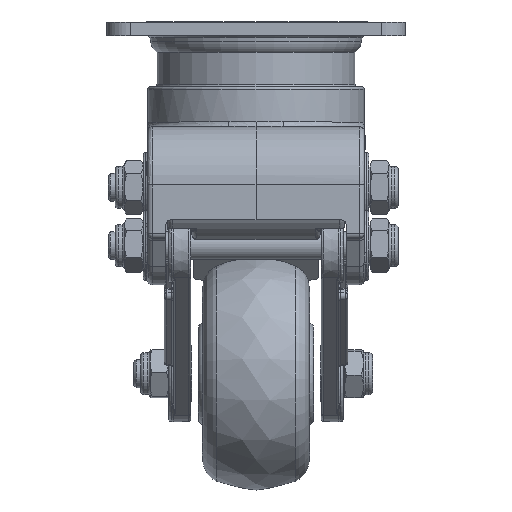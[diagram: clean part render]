
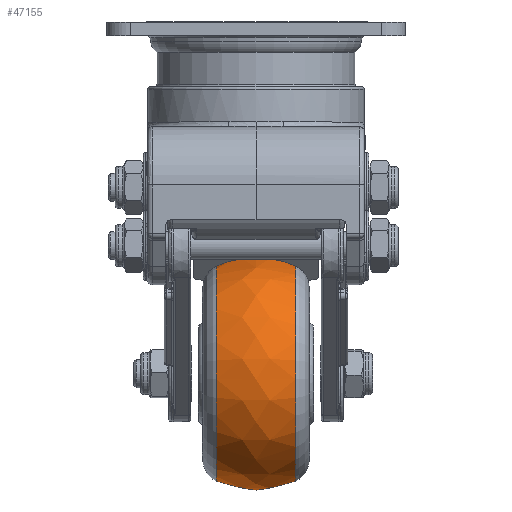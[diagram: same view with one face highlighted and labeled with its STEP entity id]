
A CAD part, left-side view. The second image highlights one B-rep face of the part: STEP entity #47155.
In plain terms, the highlighted free-form (B-spline) face has degree [2, 2] with [3, 9] control points.
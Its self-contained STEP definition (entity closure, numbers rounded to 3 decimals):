
#14=(
BOUNDED_SURFACE()
B_SPLINE_SURFACE(2,2,((#74544,#74545,#74546,#74547,#74548,#74549,#74550,
#74551,#74552),(#74553,#74554,#74555,#74556,#74557,#74558,#74559,#74560,
#74561),(#74562,#74563,#74564,#74565,#74566,#74567,#74568,#74569,#74570)),
 .UNSPECIFIED.,.F.,.T.,.F.)
B_SPLINE_SURFACE_WITH_KNOTS((3,3),(3,2,2,2,3),(-0.44,0.44),
(-3.142,-1.571,0.,1.571,3.142),
 .UNSPECIFIED.)
GEOMETRIC_REPRESENTATION_ITEM()
RATIONAL_B_SPLINE_SURFACE(((1.,0.707,1.,0.707,1.,
0.707,1.,0.707,1.),(0.905,0.64,
0.905,0.64,0.905,0.64,
0.905,0.64,0.905),(1.,0.707,
1.,0.707,1.,0.707,1.,0.707,1.)))
REPRESENTATION_ITEM('')
SURFACE()
);
#4693=CIRCLE('',#50505,23.096);
#4694=CIRCLE('',#50506,23.096);
#4695=CIRCLE('',#50507,20.);
#4696=CIRCLE('',#50508,23.096);
#4697=CIRCLE('',#50509,23.096);
#6538=FACE_OUTER_BOUND('',#9292,.T.);
#9292=EDGE_LOOP('',(#33801,#33802,#33803,#33804,#33805,#33806));
#19278=VERTEX_POINT('',#74571);
#19279=VERTEX_POINT('',#74572);
#19280=VERTEX_POINT('',#74575);
#19281=VERTEX_POINT('',#74577);
#24535=EDGE_CURVE('',#19278,#19279,#4693,.T.);
#24536=EDGE_CURVE('',#19279,#19278,#4694,.T.);
#24537=EDGE_CURVE('',#19279,#19280,#4695,.T.);
#24538=EDGE_CURVE('',#19280,#19281,#4696,.T.);
#24539=EDGE_CURVE('',#19281,#19280,#4697,.T.);
#33801=ORIENTED_EDGE('',*,*,#24535,.F.);
#33802=ORIENTED_EDGE('',*,*,#24536,.F.);
#33803=ORIENTED_EDGE('',*,*,#24537,.T.);
#33804=ORIENTED_EDGE('',*,*,#24538,.T.);
#33805=ORIENTED_EDGE('',*,*,#24539,.T.);
#33806=ORIENTED_EDGE('',*,*,#24537,.F.);
#47155=ADVANCED_FACE('',(#6538),#14,.F.);
#50505=AXIS2_PLACEMENT_3D('',#74573,#57215,#57216);
#50506=AXIS2_PLACEMENT_3D('',#74574,#57217,#57218);
#50507=AXIS2_PLACEMENT_3D('',#74576,#57219,#57220);
#50508=AXIS2_PLACEMENT_3D('',#74578,#57221,#57222);
#50509=AXIS2_PLACEMENT_3D('',#74579,#57223,#57224);
#57215=DIRECTION('center_axis',(0.,-1.,0.));
#57216=DIRECTION('ref_axis',(0.051,0.,-0.999));
#57217=DIRECTION('center_axis',(0.,-1.,0.));
#57218=DIRECTION('ref_axis',(0.051,0.,-0.999));
#57219=DIRECTION('center_axis',(-0.999,0.,
-0.051));
#57220=DIRECTION('ref_axis',(-0.051,0.,0.999));
#57221=DIRECTION('center_axis',(0.,-1.,0.));
#57222=DIRECTION('ref_axis',(0.051,0.,-0.999));
#57223=DIRECTION('center_axis',(0.,-1.,0.));
#57224=DIRECTION('ref_axis',(0.051,0.,-0.999));
#74544=CARTESIAN_POINT('Ctrl Pts',(-8.285,-21.078,-43.835));
#74545=CARTESIAN_POINT('Ctrl Pts',(-31.351,-21.078,
-45.016));
#74546=CARTESIAN_POINT('Ctrl Pts',(-30.169,-21.078,
-68.082));
#74547=CARTESIAN_POINT('Ctrl Pts',(-28.988,-21.078,
-91.148));
#74548=CARTESIAN_POINT('Ctrl Pts',(-5.922,-21.078,
-89.967));
#74549=CARTESIAN_POINT('Ctrl Pts',(17.145,-21.078,-88.785));
#74550=CARTESIAN_POINT('Ctrl Pts',(15.963,-21.078,-65.719));
#74551=CARTESIAN_POINT('Ctrl Pts',(14.782,-21.078,-42.653));
#74552=CARTESIAN_POINT('Ctrl Pts',(-8.285,-21.078,-43.835));
#74553=CARTESIAN_POINT('Ctrl Pts',(-8.49,-29.594,
-39.832));
#74554=CARTESIAN_POINT('Ctrl Pts',(-35.558,-29.594,
-41.219));
#74555=CARTESIAN_POINT('Ctrl Pts',(-34.172,-29.594,
-68.287));
#74556=CARTESIAN_POINT('Ctrl Pts',(-32.785,-29.594,
-95.356));
#74557=CARTESIAN_POINT('Ctrl Pts',(-5.717,-29.594,
-93.969));
#74558=CARTESIAN_POINT('Ctrl Pts',(21.352,-29.594,-92.583));
#74559=CARTESIAN_POINT('Ctrl Pts',(19.965,-29.594,-65.514));
#74560=CARTESIAN_POINT('Ctrl Pts',(18.579,-29.594,-38.446));
#74561=CARTESIAN_POINT('Ctrl Pts',(-8.49,-29.594,
-39.832));
#74562=CARTESIAN_POINT('Ctrl Pts',(-8.285,-38.11,
-43.835));
#74563=CARTESIAN_POINT('Ctrl Pts',(-31.351,-38.11,
-45.016));
#74564=CARTESIAN_POINT('Ctrl Pts',(-30.169,-38.11,
-68.082));
#74565=CARTESIAN_POINT('Ctrl Pts',(-28.988,-38.11,
-91.148));
#74566=CARTESIAN_POINT('Ctrl Pts',(-5.922,-38.11,-89.967));
#74567=CARTESIAN_POINT('Ctrl Pts',(17.145,-38.11,-88.785));
#74568=CARTESIAN_POINT('Ctrl Pts',(15.963,-38.11,-65.719));
#74569=CARTESIAN_POINT('Ctrl Pts',(14.782,-38.11,-42.653));
#74570=CARTESIAN_POINT('Ctrl Pts',(-8.285,-38.11,
-43.835));
#74571=CARTESIAN_POINT('',(-5.922,-38.11,-89.967));
#74572=CARTESIAN_POINT('',(-8.285,-38.11,-43.835));
#74573=CARTESIAN_POINT('Origin',(-7.103,-38.11,-66.901));
#74574=CARTESIAN_POINT('Origin',(-7.103,-38.11,-66.901));
#74575=CARTESIAN_POINT('',(-8.285,-21.078,-43.835));
#74576=CARTESIAN_POINT('Origin',(-7.359,-29.594,-61.907));
#74577=CARTESIAN_POINT('',(-5.922,-21.078,-89.967));
#74578=CARTESIAN_POINT('Origin',(-7.103,-21.078,-66.901));
#74579=CARTESIAN_POINT('Origin',(-7.103,-21.078,-66.901));
